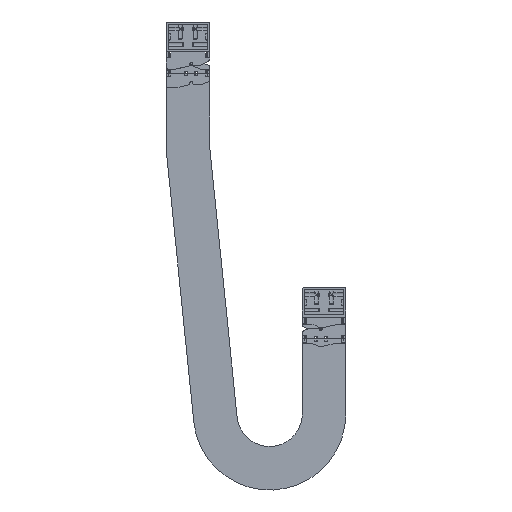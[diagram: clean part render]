
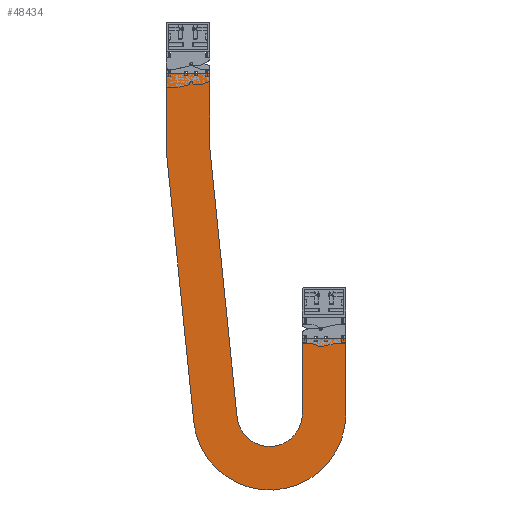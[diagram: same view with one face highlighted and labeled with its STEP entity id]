
A CAD part, left-side view. The second image highlights one B-rep face of the part: STEP entity #48434.
In plain terms, the highlighted planar face has unit normal (-1, 0, 0).
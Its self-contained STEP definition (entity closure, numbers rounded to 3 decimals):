
#47044=DIRECTION('',(0.,1.,0.));
#47045=VECTOR('',#47044,64.);
#47046=CARTESIAN_POINT('',(-35.,200.,0.));
#47047=LINE('',#47046,#47045);
#47257=DIRECTION('',(0.,-1.,0.));
#47258=VECTOR('',#47257,64.);
#47259=CARTESIAN_POINT('',(-35.,64.,-390.));
#47260=LINE('',#47259,#47258);
#47544=DIRECTION('',(0.,0.,-1.));
#47545=VECTOR('',#47544,111.874);
#47546=CARTESIAN_POINT('',(-35.,264.,0.));
#47547=LINE('',#47546,#47545);
#47551=DIRECTION('',(0.,0.,-1.));
#47552=VECTOR('',#47551,108.632);
#47553=CARTESIAN_POINT('',(-35.,200.,0.));
#47554=LINE('',#47553,#47552);
#47558=DIRECTION('',(0.,-0.101,-0.995));
#47559=VECTOR('',#47558,398.257);
#47560=CARTESIAN_POINT('',(-35.,200.,-108.632));
#47561=LINE('',#47560,#47559);
#47565=CARTESIAN_POINT('',(-35.,112.,-500.));
#47566=DIRECTION('',(-1.,0.,0.));
#47567=DIRECTION('',(0.,0.995,-0.101));
#47568=AXIS2_PLACEMENT_3D('',#47565,#47566,#47567);
#47573=DIRECTION('',(0.,0.,1.));
#47574=VECTOR('',#47573,110.);
#47575=CARTESIAN_POINT('',(-35.,64.,-500.));
#47576=LINE('',#47575,#47574);
#47587=DIRECTION('',(0.,0.,1.));
#47588=VECTOR('',#47587,110.);
#47589=CARTESIAN_POINT('',(-35.,0.,-500.));
#47590=LINE('',#47589,#47588);
#47601=CARTESIAN_POINT('',(-35.,112.,-500.));
#47602=DIRECTION('',(-1.,0.,0.));
#47603=DIRECTION('',(0.,0.995,-0.101));
#47604=AXIS2_PLACEMENT_3D('',#47601,#47602,#47603);
#47616=DIRECTION('',(0.,-0.101,-0.995));
#47617=VECTOR('',#47616,401.499);
#47618=CARTESIAN_POINT('',(-35.,264.,-111.874));
#47619=LINE('',#47618,#47617);
#47640=CARTESIAN_POINT('',(-35.,200.,0.));
#47642=VERTEX_POINT('',#47640);
#47643=CARTESIAN_POINT('',(-35.,264.,0.));
#47644=VERTEX_POINT('',#47643);
#47664=CARTESIAN_POINT('',(-35.,200.,-108.632));
#47666=VERTEX_POINT('',#47664);
#47667=CARTESIAN_POINT('',(-35.,264.,-111.874));
#47669=VERTEX_POINT('',#47667);
#47688=CARTESIAN_POINT('',(-35.,159.754,-504.851));
#47690=VERTEX_POINT('',#47688);
#47691=CARTESIAN_POINT('',(-35.,223.427,-511.318));
#47693=VERTEX_POINT('',#47691);
#47712=CARTESIAN_POINT('',(-35.,64.,-500.));
#47714=VERTEX_POINT('',#47712);
#47715=CARTESIAN_POINT('',(-35.,0.,-500.));
#47717=VERTEX_POINT('',#47715);
#47736=CARTESIAN_POINT('',(-35.,64.,-390.));
#47738=VERTEX_POINT('',#47736);
#47739=CARTESIAN_POINT('',(-35.,0.,-390.));
#47740=VERTEX_POINT('',#47739);
#48414=CARTESIAN_POINT('',(-35.,200.,0.));
#48415=DIRECTION('',(-1.,0.,0.));
#48416=DIRECTION('',(0.,1.,0.));
#48417=AXIS2_PLACEMENT_3D('',#48414,#48415,#48416);
#48418=PLANE('',#48417);
#48419=ORIENTED_EDGE('',*,*,#47750,.F.);
#48420=ORIENTED_EDGE('',*,*,#48352,.T.);
#48421=ORIENTED_EDGE('',*,*,#48331,.T.);
#48422=ORIENTED_EDGE('',*,*,#48309,.T.);
#48423=ORIENTED_EDGE('',*,*,#48287,.T.);
#48424=ORIENTED_EDGE('',*,*,#47965,.T.);
#48426=ORIENTED_EDGE('',*,*,#48425,.F.);
#48428=ORIENTED_EDGE('',*,*,#48427,.F.);
#48430=ORIENTED_EDGE('',*,*,#48429,.F.);
#48431=ORIENTED_EDGE('',*,*,#48399,.F.);
#48432=EDGE_LOOP('',(#48419,#48420,#48421,#48422,#48423,#48424,#48426,#48428,
#48430,#48431));
#48433=FACE_OUTER_BOUND('',#48432,.F.);
#47569=CIRCLE('',#47568,48.);
#47605=CIRCLE('',#47604,112.);
#47750=EDGE_CURVE('',#47642,#47644,#47047,.T.);
#47965=EDGE_CURVE('',#47738,#47740,#47260,.T.);
#48287=EDGE_CURVE('',#47714,#47738,#47576,.T.);
#48309=EDGE_CURVE('',#47690,#47714,#47569,.T.);
#48331=EDGE_CURVE('',#47666,#47690,#47561,.T.);
#48352=EDGE_CURVE('',#47642,#47666,#47554,.T.);
#48399=EDGE_CURVE('',#47644,#47669,#47547,.T.);
#48425=EDGE_CURVE('',#47717,#47740,#47590,.T.);
#48427=EDGE_CURVE('',#47693,#47717,#47605,.T.);
#48429=EDGE_CURVE('',#47669,#47693,#47619,.T.);
#48434=ADVANCED_FACE('',(#48433),#48418,.T.);
